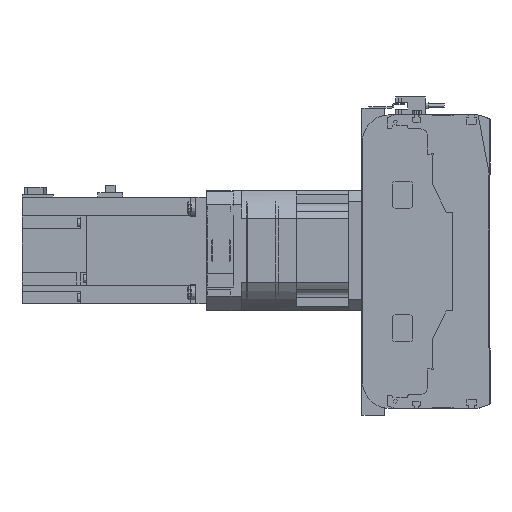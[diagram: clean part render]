
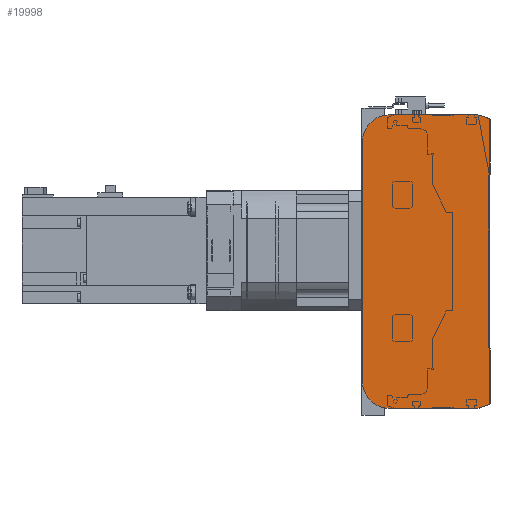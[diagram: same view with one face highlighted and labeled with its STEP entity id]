
A CAD part, left-side view. The second image highlights one B-rep face of the part: STEP entity #19998.
In plain terms, the highlighted planar face has unit normal (-1, 0, 0).
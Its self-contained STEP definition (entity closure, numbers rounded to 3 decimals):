
#1152=CIRCLE('',#21778,20.);
#1153=CIRCLE('',#21781,20.);
#4890=ORIENTED_EDGE('',*,*,#8648,.F.);
#4891=ORIENTED_EDGE('',*,*,#8690,.F.);
#4892=ORIENTED_EDGE('',*,*,#8688,.F.);
#4893=ORIENTED_EDGE('',*,*,#8686,.F.);
#4894=ORIENTED_EDGE('',*,*,#8675,.F.);
#4895=ORIENTED_EDGE('',*,*,#8666,.F.);
#4896=ORIENTED_EDGE('',*,*,#8662,.F.);
#4897=ORIENTED_EDGE('',*,*,#8659,.F.);
#8648=EDGE_CURVE('',#10871,#10872,#12667,.T.);
#8659=EDGE_CURVE('',#10872,#10879,#12678,.T.);
#8662=EDGE_CURVE('',#10879,#10881,#12681,.T.);
#8666=EDGE_CURVE('',#10881,#10882,#12685,.T.);
#8675=EDGE_CURVE('',#10882,#10888,#12694,.T.);
#8686=EDGE_CURVE('',#10888,#10895,#1152,.T.);
#8688=EDGE_CURVE('',#10895,#10896,#12706,.T.);
#8690=EDGE_CURVE('',#10896,#10871,#1153,.T.);
#10871=VERTEX_POINT('',#33224);
#10872=VERTEX_POINT('',#33226);
#10879=VERTEX_POINT('',#33245);
#10881=VERTEX_POINT('',#33251);
#10882=VERTEX_POINT('',#33257);
#10888=VERTEX_POINT('',#33273);
#10895=VERTEX_POINT('',#33292);
#10896=VERTEX_POINT('',#33296);
#12667=LINE('',#33225,#14266);
#12678=LINE('',#33244,#14277);
#12681=LINE('',#33250,#14280);
#12685=LINE('',#33256,#14284);
#12694=LINE('',#33272,#14293);
#12706=LINE('',#33295,#14305);
#14266=VECTOR('',#26317,1000.);
#14277=VECTOR('',#26330,1000.);
#14280=VECTOR('',#26335,1000.);
#14284=VECTOR('',#26341,1000.);
#14293=VECTOR('',#26352,1000.);
#14305=VECTOR('',#26370,1000.);
#15690=EDGE_LOOP('',(#4890,#4891,#4892,#4893,#4894,#4895,#4896,#4897));
#17658=FACE_BOUND('',#15690,.T.);
#19065=PLANE('',#21782);
#19998=ADVANCED_FACE('',(#17658),#19065,.F.);
#21778=AXIS2_PLACEMENT_3D('',#33291,#26365,#26366);
#21781=AXIS2_PLACEMENT_3D('',#33299,#26374,#26375);
#21782=AXIS2_PLACEMENT_3D('',#33300,#26376,#26377);
#26317=DIRECTION('',(0.,-1.,0.));
#26330=DIRECTION('',(0.,-0.945,-0.328));
#26335=DIRECTION('',(0.,0.,-1.));
#26341=DIRECTION('',(0.,0.945,-0.328));
#26352=DIRECTION('',(0.,1.,0.));
#26365=DIRECTION('',(1.,0.,0.));
#26366=DIRECTION('',(0.,0.,-1.));
#26370=DIRECTION('',(0.,0.,1.));
#26374=DIRECTION('',(1.,0.,0.));
#26375=DIRECTION('',(0.,0.,-1.));
#26376=DIRECTION('',(1.,0.,0.));
#26377=DIRECTION('',(0.,0.,-1.));
#33224=CARTESIAN_POINT('',(0.,75.5,110.));
#33225=CARTESIAN_POINT('',(0.,75.5,110.));
#33226=CARTESIAN_POINT('',(0.,9.,110.));
#33244=CARTESIAN_POINT('',(0.,9.,110.));
#33245=CARTESIAN_POINT('',(0.,0.5,107.05));
#33250=CARTESIAN_POINT('',(0.,0.5,107.05));
#33251=CARTESIAN_POINT('',(0.,0.5,-107.05));
#33256=CARTESIAN_POINT('',(0.,0.5,-107.05));
#33257=CARTESIAN_POINT('',(0.,9.,-110.));
#33272=CARTESIAN_POINT('',(0.,9.,-110.));
#33273=CARTESIAN_POINT('',(0.,75.5,-110.));
#33291=CARTESIAN_POINT('',(0.,75.5,-90.));
#33292=CARTESIAN_POINT('',(0.,95.5,-90.));
#33295=CARTESIAN_POINT('',(0.,95.5,-90.));
#33296=CARTESIAN_POINT('',(0.,95.5,90.));
#33299=CARTESIAN_POINT('',(0.,75.5,90.));
#33300=CARTESIAN_POINT('',(0.,75.5,-90.));
